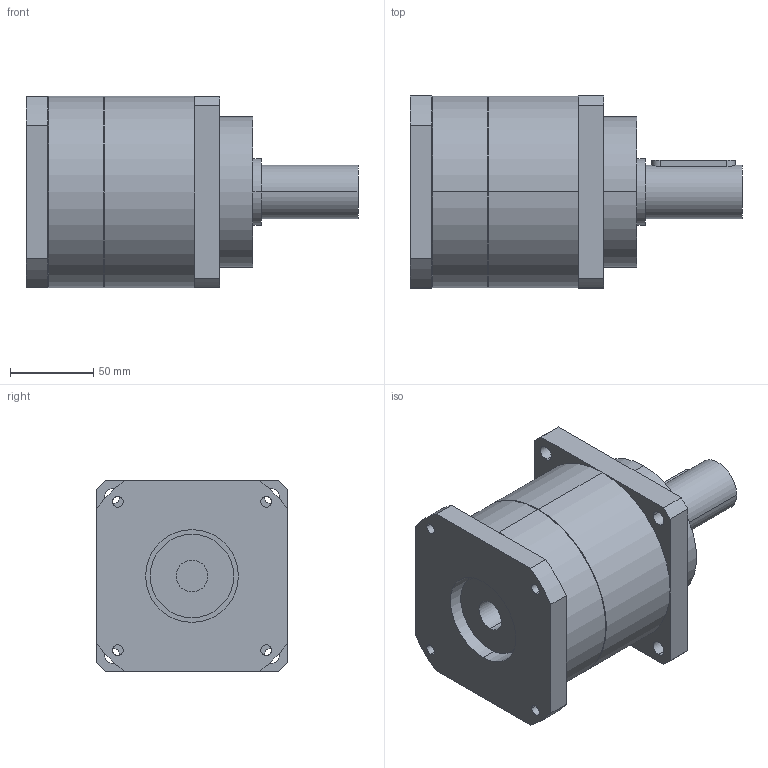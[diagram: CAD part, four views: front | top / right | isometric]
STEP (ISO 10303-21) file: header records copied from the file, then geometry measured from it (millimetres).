
FILE_DESCRIPTION(('CoCreate Modeling STEP Export'),'2;1');
FILE_NAME('GPT120_ig-3-4-5-7-10_32_B5A_19_P01.stp','2015-02-04T16:08:33',(''),(''),'CoCreate Modeling STEP processor for AP214 (Solid Model)','CoCreate Modeling 16.00C 25-Feb-2009 (C) Parametric Technology GmbH','');
FILE_SCHEMA(('AUTOMOTIVE_DESIGN { 1 0 10303 214 1 1 1 1 }'));
Length unit declared in the file: millimetre
Products named in the file (2): GPT120_ig-3-4-5-7-10_32_B5A_19_P01
Assembly tree (1 placements, depth 2):
  GPT120_ig-3-4-5-7-10_32_B5A_19_P01
    GPT120_ig-3-4-5-7-10_32_B5A_19_P01
Bounding box: 199 x 115 x 115 mm (x, y, z)
Volume: 1423807.1 mm3; surface area: 95880.2 mm2
Topology: 1 solids, 1 shells, 74 faces, 198 edges, 135 vertices
Faces by surface type: cylinder 44, plane 26, cone 4
Entity records: 2503 total; most frequent: CARTESIAN_POINT 749, ORIENTED_EDGE 396, DIRECTION 310, EDGE_CURVE 198, VERTEX_POINT 135, AXIS2_PLACEMENT_3D 114, EDGE_LOOP 99, VECTOR 82
